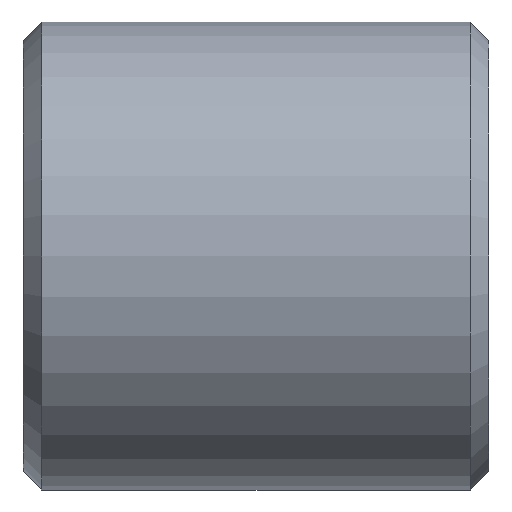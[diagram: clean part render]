
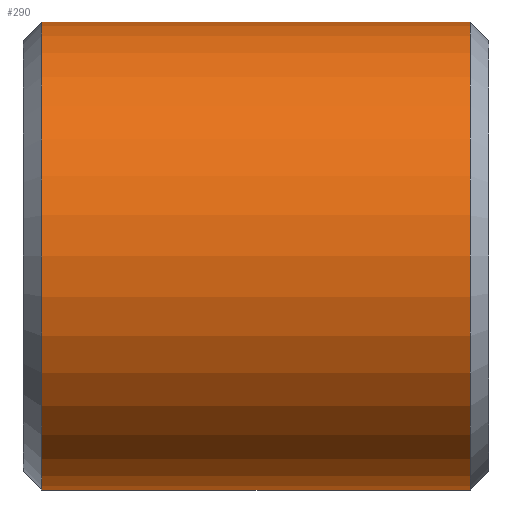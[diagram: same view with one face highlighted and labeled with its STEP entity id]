
A CAD part, front view. The second image highlights one B-rep face of the part: STEP entity #290.
In plain terms, the highlighted cylindrical face has radius 2.388 mm (diameter 4.775 mm), a partial arc.
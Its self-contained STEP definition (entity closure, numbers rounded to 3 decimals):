
#182=CARTESIAN_POINT('POINT701',(-4.559,0.,
   -2.388));
#183=VERTEX_POINT('VERTEX701',#182);
#191=CARTESIAN_POINT('POINT702',(-4.559,0.,
   2.388));
#192=VERTEX_POINT('VERTEX702',#191);
#199=CARTESIAN_POINT('POS904',(-4.559,0.,
   0.));
#200=DIRECTION('DIR1418',(1.,0.,0.));
#201=DIRECTION('DIR1419',(0.,0.,-1.));
#202=AXIS2_PLACEMENT_3D('AXIS515',#199,#200,#201);
#203=CIRCLE('ELLIPSE263',#202,2.388);
#214=CARTESIAN_POINT('POINT703',(-0.191,0.,
   2.388));
#215=VERTEX_POINT('VERTEX703',#214);
#223=CARTESIAN_POINT('POINT704',(-0.191,0.,
   -2.388));
#224=VERTEX_POINT('VERTEX704',#223);
#231=CARTESIAN_POINT('POS908',(-0.191,0.,
   0.));
#232=DIRECTION('DIR1424',(-1.,0.,0.));
#233=DIRECTION('DIR1425',(0.,0.,1.));
#234=AXIS2_PLACEMENT_3D('AXIS517',#231,#232,#233);
#235=CIRCLE('ELLIPSE264',#234,2.388);
#247=EDGE_CURVE('EDGE1127',#224,#215,#235,.T.);
#255=EDGE_CURVE('EDGE1128',#192,#183,#203,.T.);
#262=CARTESIAN_POINT('POS910',(-2.375,0.,
   2.388));
#263=DIRECTION('DIR1428',(1.,0.,0.));
#264=VECTOR('VEC392',#263,1.);
#265=LINE('STRAIGHT392',#262,#264);
#266=EDGE_CURVE('EDGE1129',#192,#215,#265,.T.);
#269=CARTESIAN_POINT('POS911',(-2.375,0.,
   -2.388));
#270=DIRECTION('DIR1429',(-1.,0.,0.));
#271=VECTOR('VEC393',#270,1.);
#272=LINE('STRAIGHT393',#269,#271);
#273=EDGE_CURVE('EDGE1130',#224,#183,#272,.T.);
#278=CARTESIAN_POINT('POS912',(-2.375,0.,
   0.));
#279=DIRECTION('DIR1430',(1.,0.,0.));
#280=DIRECTION('DIR1431',(0.,0.,
   1.));
#281=AXIS2_PLACEMENT_3D('AXIS519',#278,#279,#280);
#282=CYLINDRICAL_SURFACE('CONE_SURF97',#281,2.388);
#284=ORIENTED_EDGE('COEDGE2257',*,*,#266,.F.);
#285=ORIENTED_EDGE('COEDGE2258',*,*,#255,.T.);
#286=ORIENTED_EDGE('COEDGE2259',*,*,#273,.F.);
#287=ORIENTED_EDGE('COEDGE2260',*,*,#247,.T.);
#288=EDGE_LOOP('NONE',(#284,#285,#286,#287));
#289=FACE_BOUND('LOOP1',#288,.T.);
#290=ADVANCED_FACE('FACE461',(#289),#282,.T.);
